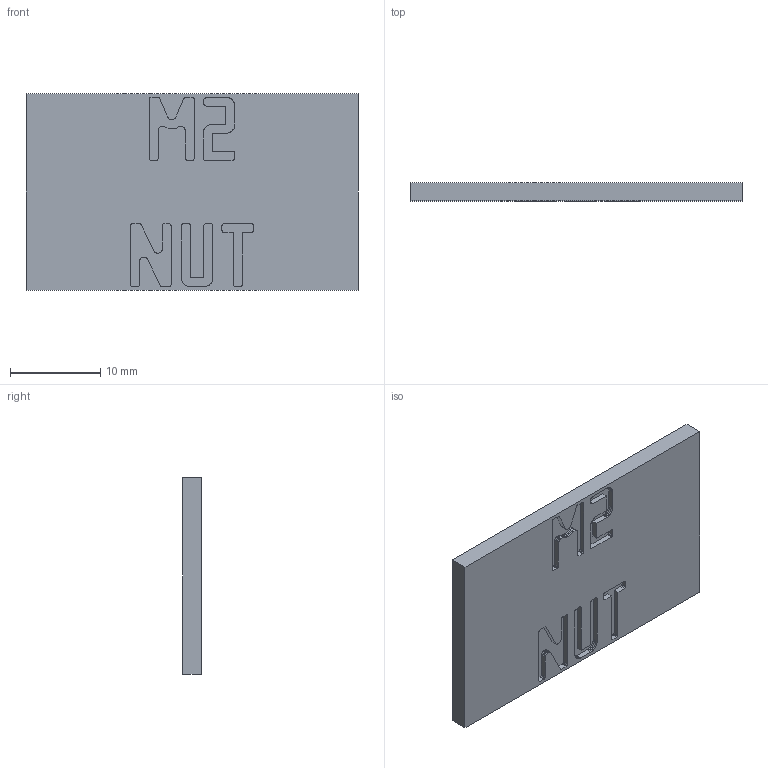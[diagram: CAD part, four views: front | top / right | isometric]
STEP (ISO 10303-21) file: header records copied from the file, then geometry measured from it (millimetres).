
FILE_DESCRIPTION(('Open CASCADE Model'),'2;1');
FILE_NAME('Open CASCADE Shape Model','2026-11-03T17:10:20',('Author'),( 'Open CASCADE'),'Open CASCADE STEP processor 8.0','build123d', 'Unknown');
FILE_SCHEMA(('AUTOMOTIVE_DESIGN { 1 0 10303 214 1 1 1 1 }'));
Length unit declared in the file: millimetre
Products named in the file (2): =>[0:1:1:2]; COMPOUND
Assembly tree (1 placements, depth 2):
  =>[0:1:1:2]
    COMPOUND
Bounding box: 36.8 x 2 x 21.8 mm (x, y, z)
Volume: 1557.1 mm3; surface area: 1927.2 mm2
Topology: 1 solids, 1 shells, 466 faces, 1377 edges, 918 vertices
Faces by surface type: plane 466
Entity records: 33150 total; most frequent: CARTESIAN_POINT 5517, DIRECTION 5067, LINE 4131, VECTOR 4131, ORIENTED_EDGE 2754, PCURVE 2754, DEFINITIONAL_REPRESENTATION 2754, EDGE_CURVE 1377
